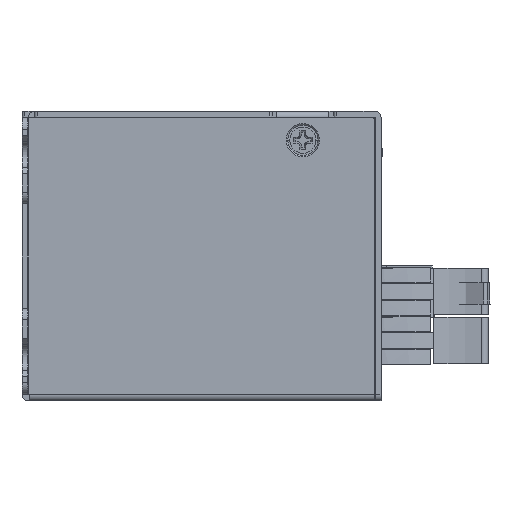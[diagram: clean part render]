
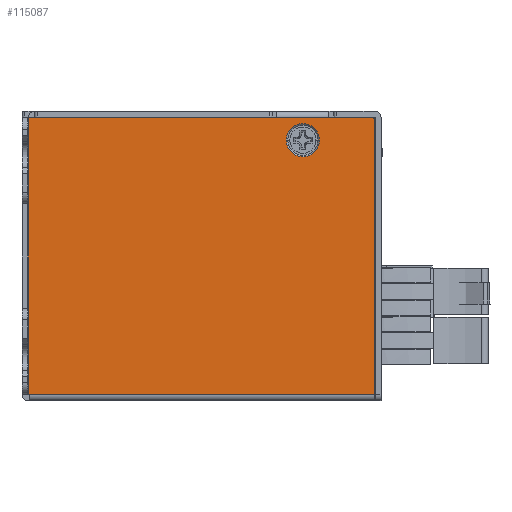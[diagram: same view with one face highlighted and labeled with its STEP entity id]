
A CAD part, left-side view. The second image highlights one B-rep face of the part: STEP entity #115087.
In plain terms, the highlighted planar face has unit normal (-1, 0, 0).
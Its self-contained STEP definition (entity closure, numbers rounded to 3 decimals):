
#113193=DIRECTION('',(0.,0.,-1.));
#113194=VECTOR('',#113193,47.4);
#113195=CARTESIAN_POINT('',(-69.,0.05,48.4));
#113196=LINE('',#113195,#113194);
#113232=DIRECTION('',(0.,0.,1.));
#113233=VECTOR('',#113232,0.1);
#113234=CARTESIAN_POINT('',(-69.,59.65,1.));
#113235=LINE('',#113234,#113233);
#113241=CARTESIAN_POINT('',(-69.,0.55,48.4));
#113242=DIRECTION('',(-1.,0.,0.));
#113243=DIRECTION('',(0.,-1.,0.));
#113244=AXIS2_PLACEMENT_3D('',#113241,#113242,#113243);
#113246=CARTESIAN_POINT('',(-69.,12.5,45.));
#113247=DIRECTION('',(1.,0.,0.));
#113248=DIRECTION('',(0.,-1.,0.));
#113249=AXIS2_PLACEMENT_3D('',#113246,#113247,#113248);
#113251=CARTESIAN_POINT('',(-69.,12.5,45.));
#113252=DIRECTION('',(1.,0.,0.));
#113253=DIRECTION('',(0.,1.,0.));
#113254=AXIS2_PLACEMENT_3D('',#113251,#113252,#113253);
#113256=DIRECTION('',(0.,-1.,0.));
#113257=VECTOR('',#113256,0.3);
#113258=CARTESIAN_POINT('',(-69.,59.95,1.1));
#113259=LINE('',#113258,#113257);
#113280=DIRECTION('',(0.,0.,1.));
#113281=VECTOR('',#113280,47.8);
#113282=CARTESIAN_POINT('',(-69.,59.95,1.1));
#113283=LINE('',#113282,#113281);
#113284=DIRECTION('',(0.,-1.,0.));
#113285=VECTOR('',#113284,59.4);
#113286=CARTESIAN_POINT('',(-69.,59.95,48.9));
#113287=LINE('',#113286,#113285);
#113292=DIRECTION('',(0.,1.,0.));
#113293=VECTOR('',#113292,59.6);
#113294=CARTESIAN_POINT('',(-69.,0.05,1.));
#113295=LINE('',#113294,#113293);
#113823=CARTESIAN_POINT('',(-69.,15.35,45.));
#113824=CARTESIAN_POINT('',(-69.,9.65,45.));
#113825=VERTEX_POINT('',#113823);
#113826=VERTEX_POINT('',#113824);
#113827=CARTESIAN_POINT('',(-69.,59.65,1.));
#113828=CARTESIAN_POINT('',(-69.,59.65,1.1));
#113829=VERTEX_POINT('',#113827);
#113830=VERTEX_POINT('',#113828);
#113831=CARTESIAN_POINT('',(-69.,59.95,1.1));
#113832=VERTEX_POINT('',#113831);
#113833=CARTESIAN_POINT('',(-69.,59.95,48.9));
#113834=VERTEX_POINT('',#113833);
#113835=CARTESIAN_POINT('',(-69.,0.55,48.9));
#113836=VERTEX_POINT('',#113835);
#113837=CARTESIAN_POINT('',(-69.,0.05,48.4));
#113838=VERTEX_POINT('',#113837);
#113839=CARTESIAN_POINT('',(-69.,0.05,1.));
#113840=VERTEX_POINT('',#113839);
#115063=CARTESIAN_POINT('',(-69.,30.,24.95));
#115064=DIRECTION('',(1.,0.,0.));
#115065=DIRECTION('',(0.,-1.,0.));
#115066=AXIS2_PLACEMENT_3D('',#115063,#115064,#115065);
#115067=PLANE('',#115066);
#115068=ORIENTED_EDGE('',*,*,#115045,.T.);
#115070=ORIENTED_EDGE('',*,*,#115069,.F.);
#115072=ORIENTED_EDGE('',*,*,#115071,.T.);
#115074=ORIENTED_EDGE('',*,*,#115073,.T.);
#115075=ORIENTED_EDGE('',*,*,#114994,.F.);
#115076=ORIENTED_EDGE('',*,*,#114974,.T.);
#115078=ORIENTED_EDGE('',*,*,#115077,.T.);
#115079=EDGE_LOOP('',(#115068,#115070,#115072,#115074,#115075,#115076,#115078));
#115080=FACE_OUTER_BOUND('',#115079,.F.);
#115082=ORIENTED_EDGE('',*,*,#115081,.F.);
#115084=ORIENTED_EDGE('',*,*,#115083,.F.);
#115085=EDGE_LOOP('',(#115082,#115084));
#115086=FACE_BOUND('',#115085,.F.);
#115087=ADVANCED_FACE('',(#115080,#115086),#115067,.F.);
#113245=CIRCLE('',#113244,0.5);
#113250=CIRCLE('',#113249,2.85);
#113255=CIRCLE('',#113254,2.85);
#114974=EDGE_CURVE('',#113838,#113840,#113196,.T.);
#114994=EDGE_CURVE('',#113838,#113836,#113245,.T.);
#115045=EDGE_CURVE('',#113829,#113830,#113235,.T.);
#115069=EDGE_CURVE('',#113832,#113830,#113259,.T.);
#115071=EDGE_CURVE('',#113832,#113834,#113283,.T.);
#115073=EDGE_CURVE('',#113834,#113836,#113287,.T.);
#115077=EDGE_CURVE('',#113840,#113829,#113295,.T.);
#115081=EDGE_CURVE('',#113826,#113825,#113250,.T.);
#115083=EDGE_CURVE('',#113825,#113826,#113255,.T.);
